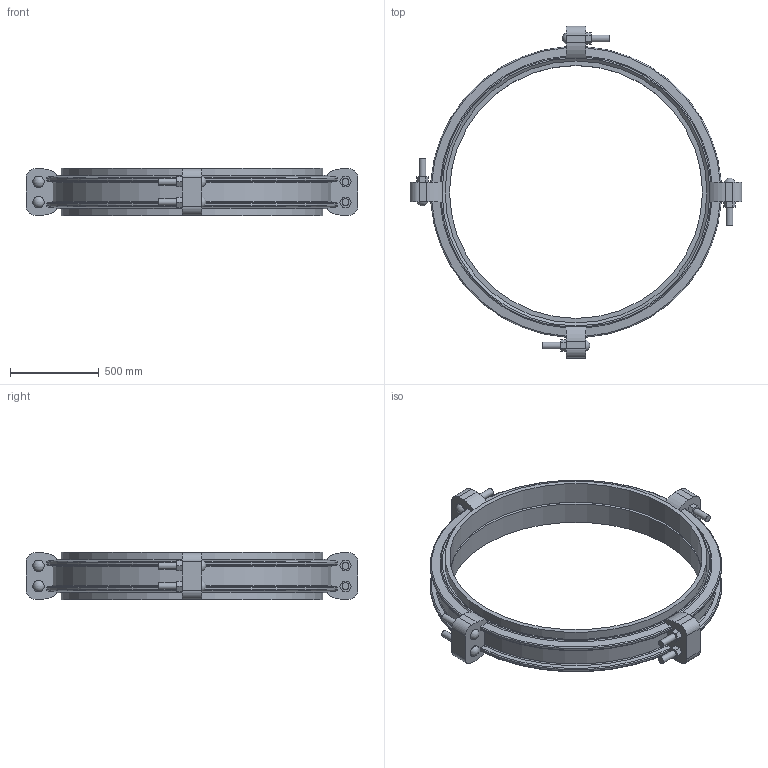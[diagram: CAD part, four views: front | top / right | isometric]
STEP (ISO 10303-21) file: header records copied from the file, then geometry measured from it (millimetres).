
FILE_DESCRIPTION(/* description */ ('VIC COUPLING FLEX STYLE W77 AGS VIC-RING ','CAx-IF Rec.Pracs.---Representation and Presentation of Product Manufacturing Information (PMI)---4.0---2014-10-13'),/* implementation_level */ '2;1');
FILE_NAME(/* name */ 'C:\Users\Vjadhav\AppData\Roaming\Autodesk\ApplicationPlugins\Victaulic.Temp\A52\Victaulic_Vic-Ring_Coupling Flexible_Style W77 (AGR)_58 (1450).stp',/* time_stamp */ '2021-12-20T11:06:51+06:00',/* author */ ('Vjadhav'),/* organization */ ('Victaulic'),/* preprocessor_version */ 'ST-DEVELOPER v17.2',/* originating_system */ 'Autodesk Inventor 2019',/* authorisation */ '');
FILE_SCHEMA (('AP242_MANAGED_MODEL_BASED_3D_ENGINEERING_MIM_LF { 1 0 10303 442 1 1 4 }'));
Length unit declared in the file: inch
Products named in the file (3): W77 VR-58.0; W77-VR-58.0; W77 VR-58.0_1
Assembly tree (3 placements, depth 2):
  W77 VR-58.0
    W77-VR-58.0
    W77 VR-58.0_1  x2
Bounding box: 1866.9 x 1866.9 x 265.94 mm (x, y, z)
Volume: 96552950.8 mm3; surface area: 6400602 mm2
Topology: 3 solids, 11 shells, 279 faces, 745 edges, 512 vertices
Faces by surface type: plane 138, cylinder 83, torus 32, cone 18, sphere 8
Full cylindrical faces by diameter (mm): 38.1 x16, 63.5 x8, 1422.4 x2, 1454.15 x1, 1473.2 x4
Entity records: 10061 total; most frequent: CARTESIAN_POINT 2672, ORIENTED_EDGE 1470, DIRECTION 1457, EDGE_CURVE 735, AXIS2_PLACEMENT_3D 537, VERTEX_POINT 504, LINE 383, VECTOR 383
